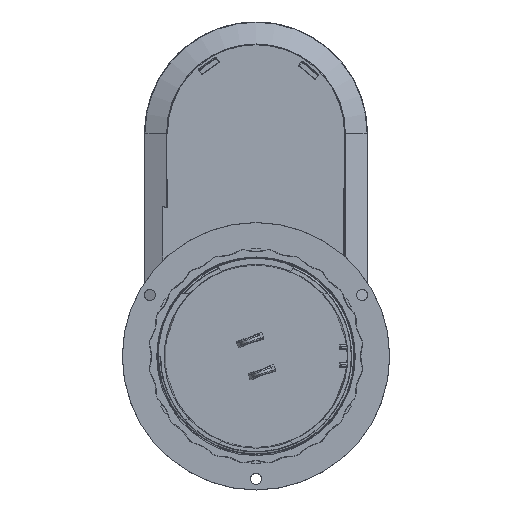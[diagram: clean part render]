
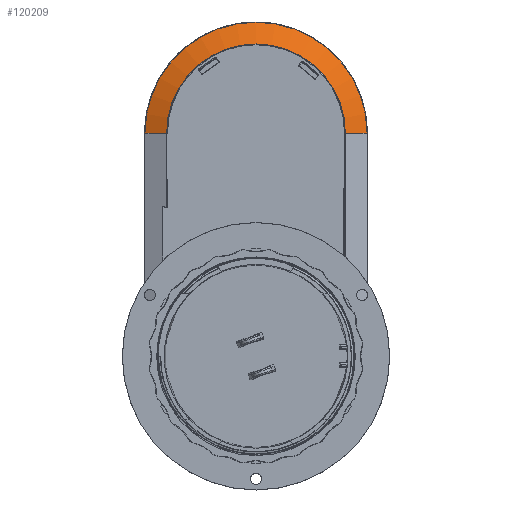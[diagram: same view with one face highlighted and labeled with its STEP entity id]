
A CAD part, front view. The second image highlights one B-rep face of the part: STEP entity #120209.
In plain terms, the highlighted conical face has half-angle 64.983 degrees and reference radius 45 mm.
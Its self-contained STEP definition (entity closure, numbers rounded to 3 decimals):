
#1923 = LINE ( 'NONE', #127979, #120639 ) ;
#3811 = CARTESIAN_POINT ( 'NONE',  ( 0., -5.5, 90. ) ) ;
#6524 = ORIENTED_EDGE ( 'NONE', *, *, #178713, .T. ) ;
#12695 = CIRCLE ( 'NONE', #61451, 36.113 ) ;
#18830 = CARTESIAN_POINT ( 'NONE',  ( 44.86, -5.565, 90. ) ) ;
#31479 = CARTESIAN_POINT ( 'NONE',  ( -44.86, -5.565, 90. ) ) ;
#34429 = DIRECTION ( 'NONE',  ( -0.906, -0.423, 0. ) ) ;
#35474 = VERTEX_POINT ( 'NONE', #164290 ) ;
#38604 = CARTESIAN_POINT ( 'NONE',  ( 0., -9.647, 90. ) ) ;
#50203 = CIRCLE ( 'NONE', #163900, 44.86 ) ;
#50659 = EDGE_CURVE ( 'NONE', #35474, #111921, #12695, .T. ) ;
#58839 = DIRECTION ( 'NONE',  ( 0., 1., 0. ) ) ;
#61451 = AXIS2_PLACEMENT_3D ( 'NONE', #38604, #58839, #181978 ) ;
#65835 = DIRECTION ( 'NONE',  ( -1., 0., 0. ) ) ;
#72095 = VECTOR ( 'NONE', #118648, 1000. ) ;
#73992 = CARTESIAN_POINT ( 'NONE',  ( 0., -5.565, 90. ) ) ;
#78401 = VERTEX_POINT ( 'NONE', #31479 ) ;
#81111 = FACE_OUTER_BOUND ( 'NONE', #105371, .T. ) ;
#87097 = LINE ( 'NONE', #132845, #72095 ) ;
#88701 = CARTESIAN_POINT ( 'NONE',  ( 36.113, -9.647, 90. ) ) ;
#94467 = EDGE_CURVE ( 'NONE', #78401, #35474, #87097, .T. ) ;
#105371 = EDGE_LOOP ( 'NONE', ( #112874, #125302, #144986, #6524 ) ) ;
#111921 = VERTEX_POINT ( 'NONE', #88701 ) ;
#112874 = ORIENTED_EDGE ( 'NONE', *, *, #94467, .T. ) ;
#118648 = DIRECTION ( 'NONE',  ( 0.906, -0.423, 0. ) ) ;
#119789 = DIRECTION ( 'NONE',  ( -1., 0., 0. ) ) ;
#120209 = ADVANCED_FACE ( 'NONE', ( #81111 ), #165502, .T. ) ;
#120639 = VECTOR ( 'NONE', #34429, 1000. ) ;
#125302 = ORIENTED_EDGE ( 'NONE', *, *, #50659, .T. ) ;
#127979 = CARTESIAN_POINT ( 'NONE',  ( 45., -5.5, 90. ) ) ;
#130245 = EDGE_CURVE ( 'NONE', #139693, #111921, #1923, .T. ) ;
#132845 = CARTESIAN_POINT ( 'NONE',  ( -45., -5.5, 90. ) ) ;
#139693 = VERTEX_POINT ( 'NONE', #18830 ) ;
#142858 = AXIS2_PLACEMENT_3D ( 'NONE', #3811, #180446, #65835 ) ;
#144986 = ORIENTED_EDGE ( 'NONE', *, *, #130245, .F. ) ;
#163900 = AXIS2_PLACEMENT_3D ( 'NONE', #73992, #166586, #119789 ) ;
#164290 = CARTESIAN_POINT ( 'NONE',  ( -36.113, -9.647, 90. ) ) ;
#165502 = CONICAL_SURFACE ( 'NONE', #142858, 45., 1.134 ) ;
#166586 = DIRECTION ( 'NONE',  ( 0., -1., 0. ) ) ;
#178713 = EDGE_CURVE ( 'NONE', #139693, #78401, #50203, .T. ) ;
#180446 = DIRECTION ( 'NONE',  ( 0., 1., 0. ) ) ;
#181978 = DIRECTION ( 'NONE',  ( -1., 0., 0. ) ) ;
